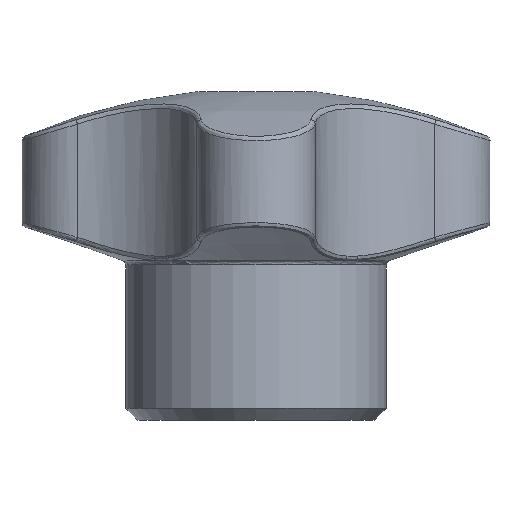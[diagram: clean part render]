
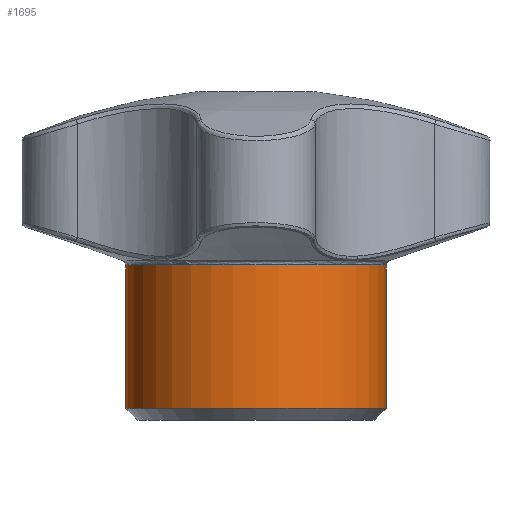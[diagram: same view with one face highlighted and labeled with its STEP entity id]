
A CAD part, front view. The second image highlights one B-rep face of the part: STEP entity #1695.
In plain terms, the highlighted cylindrical face has radius 5.5 mm (diameter 11 mm), a partial arc.
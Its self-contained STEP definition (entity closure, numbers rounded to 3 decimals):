
#1052 = ORIENTED_EDGE ( 'NONE', *, *, #1725, .T. ) ;
#1164 = ORIENTED_EDGE ( 'NONE', *, *, #1654, .T. ) ;
#1544 = EDGE_CURVE ( 'NONE', #1560, #1558, #2789, .T. ) ;
#1558 = VERTEX_POINT ( 'NONE', #2785 ) ;
#1560 = VERTEX_POINT ( 'NONE', #2773 ) ;
#1574 = EDGE_CURVE ( 'NONE', #1560, #1592, #2778, .T. ) ;
#1592 = VERTEX_POINT ( 'NONE', #2800 ) ;
#1603 = VERTEX_POINT ( 'NONE', #2832 ) ;
#1654 = EDGE_CURVE ( 'NONE', #1603, #1558, #2931, .T. ) ;
#1695 = ADVANCED_FACE ( 'NONE', ( #3251 ), #3253, .T. ) ;
#1718 = ORIENTED_EDGE ( 'NONE', *, *, #1574, .T. ) ;
#1725 = EDGE_CURVE ( 'NONE', #1592, #1603, #3336, .T. ) ;
#1728 = EDGE_LOOP ( 'NONE', ( #1732, #1718, #1052, #1164 ) ) ;
#1732 = ORIENTED_EDGE ( 'NONE', *, *, #1544, .F. ) ;
#2773 = CARTESIAN_POINT ( 'NONE',  ( 5.5, 0., 6.557 ) ) ;
#2778 = CIRCLE ( 'NONE', #2819, 5.5 ) ;
#2780 = DIRECTION ( 'NONE',  ( 0., 0., -1. ) ) ;
#2781 = VECTOR ( 'NONE', #2780, 1000. ) ;
#2782 = CARTESIAN_POINT ( 'NONE',  ( 5.5, 0., -57. ) ) ;
#2785 = CARTESIAN_POINT ( 'NONE',  ( 5.5, 0., 0.5 ) ) ;
#2789 = LINE ( 'NONE', #2782, #2781 ) ;
#2800 = CARTESIAN_POINT ( 'NONE',  ( -5.5, 0., 6.557 ) ) ;
#2816 = DIRECTION ( 'NONE',  ( -1., 0., 0. ) ) ;
#2817 = DIRECTION ( 'NONE',  ( 0., 0., -1. ) ) ;
#2818 = CARTESIAN_POINT ( 'NONE',  ( 0., 0., 6.557 ) ) ;
#2819 = AXIS2_PLACEMENT_3D ( 'NONE', #2818, #2817, #2816 ) ;
#2832 = CARTESIAN_POINT ( 'NONE',  ( -5.5, 0., 0.5 ) ) ;
#2931 = CIRCLE ( 'NONE', #2963, 5.5 ) ;
#2959 = DIRECTION ( 'NONE',  ( -1., 0., 0. ) ) ;
#2960 = DIRECTION ( 'NONE',  ( 0., 0., 1. ) ) ;
#2962 = CARTESIAN_POINT ( 'NONE',  ( 0., 0., 0.5 ) ) ;
#2963 = AXIS2_PLACEMENT_3D ( 'NONE', #2962, #2960, #2959 ) ;
#3236 = DIRECTION ( 'NONE',  ( -1., 0., 0. ) ) ;
#3237 = DIRECTION ( 'NONE',  ( 0., 0., -1. ) ) ;
#3239 = AXIS2_PLACEMENT_3D ( 'NONE', #3254, #3237, #3236 ) ;
#3251 = FACE_OUTER_BOUND ( 'NONE', #1728, .T. ) ;
#3253 = CYLINDRICAL_SURFACE ( 'NONE', #3239, 5.5 ) ;
#3254 = CARTESIAN_POINT ( 'NONE',  ( 0., 0., -57. ) ) ;
#3333 = DIRECTION ( 'NONE',  ( 0., 0., -1. ) ) ;
#3334 = VECTOR ( 'NONE', #3333, 1000. ) ;
#3335 = CARTESIAN_POINT ( 'NONE',  ( -5.5, 0., -57. ) ) ;
#3336 = LINE ( 'NONE', #3335, #3334 ) ;
